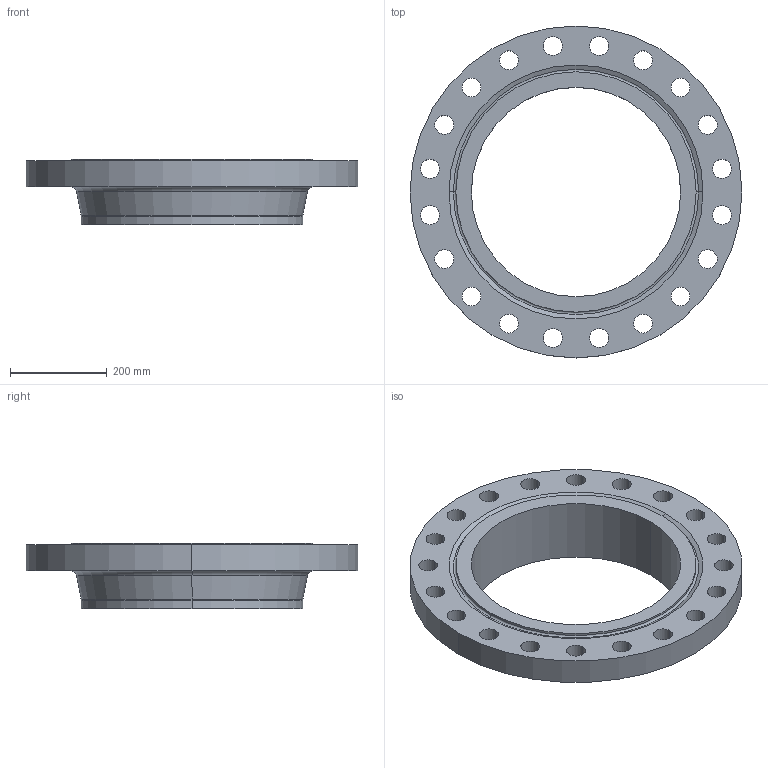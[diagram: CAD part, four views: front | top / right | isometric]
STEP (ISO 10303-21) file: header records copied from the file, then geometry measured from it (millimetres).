
FILE_DESCRIPTION (( 'STEP AP214' ), '1' );
FILE_NAME ('PN40 DN450 Type 11 - Type H Face.STEP', '2018-12-29T04:54:46', ( '' ), ( '' ), 'SwSTEP 2.0', 'SolidWorks 2019', '' );
FILE_SCHEMA (( 'AUTOMOTIVE_DESIGN' ));
Length unit declared in the file: millimetre
Products named in the file (1): PN40 DN450 Type 11 - Type H Face
Bounding box: 685 x 685 x 135 mm (x, y, z)
Volume: 12659690 mm3; surface area: 933791.4 mm2
Topology: 1 solids, 1 shells, 62 faces, 164 edges, 106 vertices
Faces by surface type: cylinder 48, torus 6, cone 4, plane 4
Entity records: 2098 total; most frequent: DIRECTION 402, CARTESIAN_POINT 333, ORIENTED_EDGE 328, AXIS2_PLACEMENT_3D 175, EDGE_CURVE 164, CIRCLE 112, VERTEX_POINT 106, EDGE_LOOP 106
